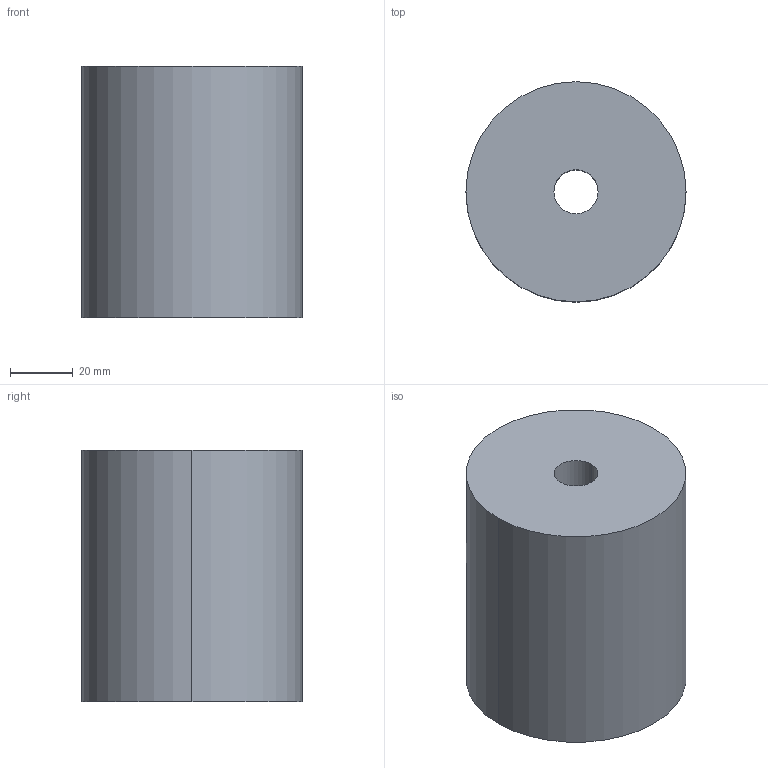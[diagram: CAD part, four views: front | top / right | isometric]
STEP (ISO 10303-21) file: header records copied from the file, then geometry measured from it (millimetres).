
FILE_DESCRIPTION(/* description */ (''),/* implementation_level */ '2;1');
FILE_NAME(/* name */ '3d_el70-14-80_03747_r00.stp',/* time_stamp */ '2011-01-10T14:15:45+09:00',/* author */ ('MISUMI'),/* organization */ (''),/* preprocessor_version */ 'ST-DEVELOPER v11',/* originating_system */ 'UGS - NX 5.0',/* authorisation */ '');
FILE_SCHEMA (('CONFIG_CONTROL_DESIGN'));
Length unit declared in the file: millimetre
Products named in the file (1): 3d_el70-14-80_03747_r00
Bounding box: 70 x 70 x 80 mm (x, y, z)
Volume: 295561 mm3; surface area: 28500.5 mm2
Topology: 1 solids, 1 shells, 6 faces, 12 edges, 8 vertices
Faces by surface type: cylinder 4, plane 2
Entity records: 254 total; most frequent: DIRECTION 34, CARTESIAN_POINT 27, ORIENTED_EDGE 24, AXIS2_PLACEMENT_3D 15, EDGE_CURVE 12, EDGE_LOOP 8, VERTEX_POINT 8, CIRCLE 8
